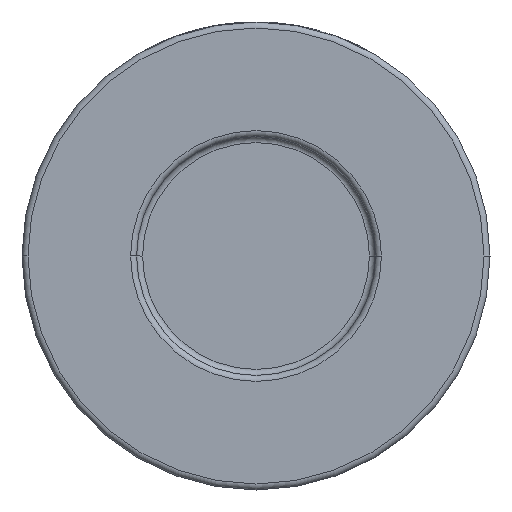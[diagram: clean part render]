
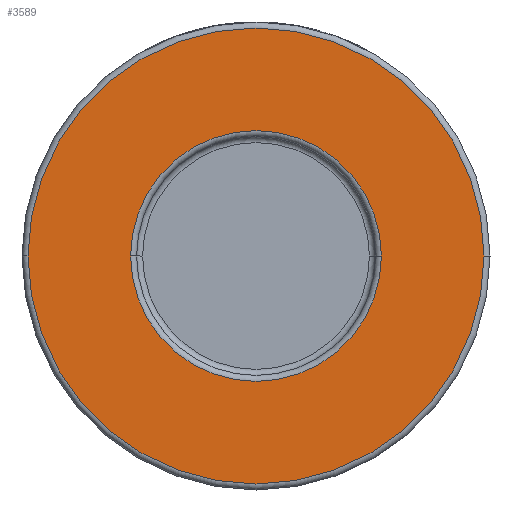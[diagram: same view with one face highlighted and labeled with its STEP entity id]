
A CAD part, front view. The second image highlights one B-rep face of the part: STEP entity #3589.
In plain terms, the highlighted planar face has unit normal (0, -1, 0).
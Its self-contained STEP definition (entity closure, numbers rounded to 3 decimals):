
#68 = DIRECTION ( 'NONE',  ( 1., 0., 0. ) ) ;
#342 = EDGE_CURVE ( 'NONE', #3229, #3691, #1682, .T. ) ;
#559 = EDGE_LOOP ( 'NONE', ( #3688, #2156 ) ) ;
#638 = EDGE_CURVE ( 'NONE', #4060, #2149, #777, .T. ) ;
#680 = CARTESIAN_POINT ( 'NONE',  ( -38., -26., 0. ) ) ;
#748 = DIRECTION ( 'NONE',  ( 0., 1., 0. ) ) ;
#777 = CIRCLE ( 'NONE', #1374, 20.9 ) ;
#926 = AXIS2_PLACEMENT_3D ( 'NONE', #4358, #1489, #1818 ) ;
#1057 = DIRECTION ( 'NONE',  ( 0., -1., 0. ) ) ;
#1374 = AXIS2_PLACEMENT_3D ( 'NONE', #3107, #4515, #1391 ) ;
#1391 = DIRECTION ( 'NONE',  ( 1., 0., 0. ) ) ;
#1489 = DIRECTION ( 'NONE',  ( 0., -1., 0. ) ) ;
#1640 = DIRECTION ( 'NONE',  ( 0., -1., 0. ) ) ;
#1682 = CIRCLE ( 'NONE', #926, 38. ) ;
#1818 = DIRECTION ( 'NONE',  ( 1., 0., 0. ) ) ;
#1855 = DIRECTION ( 'NONE',  ( 1., 0., 0. ) ) ;
#1950 = AXIS2_PLACEMENT_3D ( 'NONE', #3416, #1640, #4027 ) ;
#2149 = VERTEX_POINT ( 'NONE', #2619 ) ;
#2156 = ORIENTED_EDGE ( 'NONE', *, *, #638, .T. ) ;
#2401 = ORIENTED_EDGE ( 'NONE', *, *, #2561, .T. ) ;
#2512 = FACE_BOUND ( 'NONE', #559, .T. ) ;
#2561 = EDGE_CURVE ( 'NONE', #3691, #3229, #3560, .T. ) ;
#2619 = CARTESIAN_POINT ( 'NONE',  ( 20.9, -26., 0. ) ) ;
#2643 = ORIENTED_EDGE ( 'NONE', *, *, #342, .T. ) ;
#2744 = AXIS2_PLACEMENT_3D ( 'NONE', #4283, #1057, #1855 ) ;
#2747 = AXIS2_PLACEMENT_3D ( 'NONE', #4301, #748, #68 ) ;
#2908 = FACE_OUTER_BOUND ( 'NONE', #4526, .T. ) ;
#3081 = CARTESIAN_POINT ( 'NONE',  ( 38., -26., 0. ) ) ;
#3107 = CARTESIAN_POINT ( 'NONE',  ( 0., -26., 0. ) ) ;
#3229 = VERTEX_POINT ( 'NONE', #3081 ) ;
#3416 = CARTESIAN_POINT ( 'NONE',  ( 0., -26., 0. ) ) ;
#3560 = CIRCLE ( 'NONE', #1950, 38. ) ;
#3589 = ADVANCED_FACE ( 'NONE', ( #2512, #2908 ), #3606, .T. ) ;
#3606 = PLANE ( 'NONE',  #2744 ) ;
#3647 = CARTESIAN_POINT ( 'NONE',  ( -20.9, -26., 0. ) ) ;
#3688 = ORIENTED_EDGE ( 'NONE', *, *, #4418, .T. ) ;
#3691 = VERTEX_POINT ( 'NONE', #680 ) ;
#4027 = DIRECTION ( 'NONE',  ( 1., 0., 0. ) ) ;
#4060 = VERTEX_POINT ( 'NONE', #3647 ) ;
#4283 = CARTESIAN_POINT ( 'NONE',  ( 39., -26., 0. ) ) ;
#4301 = CARTESIAN_POINT ( 'NONE',  ( 0., -26., 0. ) ) ;
#4358 = CARTESIAN_POINT ( 'NONE',  ( 0., -26., 0. ) ) ;
#4418 = EDGE_CURVE ( 'NONE', #2149, #4060, #4578, .T. ) ;
#4515 = DIRECTION ( 'NONE',  ( 0., 1., 0. ) ) ;
#4526 = EDGE_LOOP ( 'NONE', ( #2643, #2401 ) ) ;
#4578 = CIRCLE ( 'NONE', #2747, 20.9 ) ;
